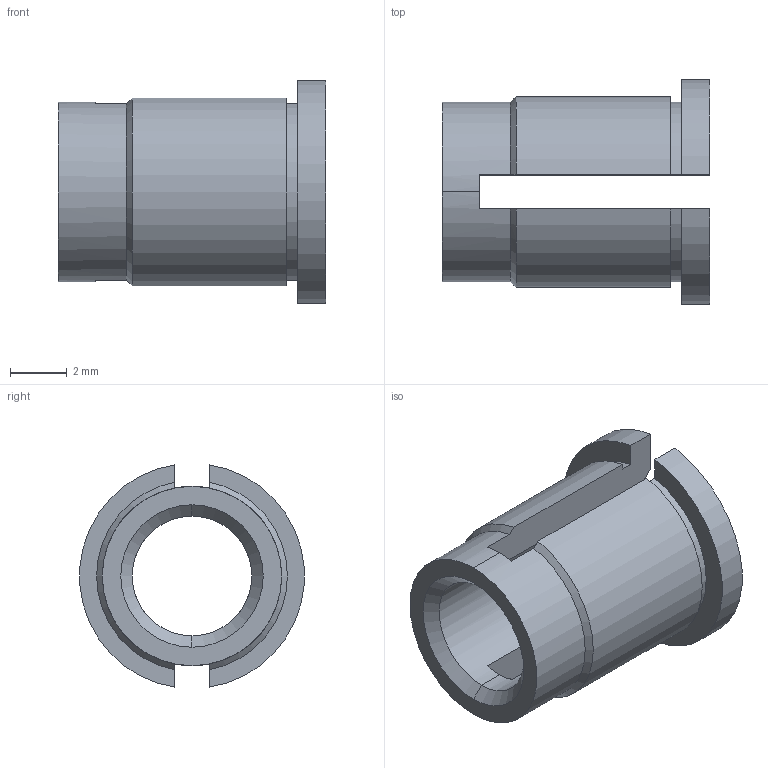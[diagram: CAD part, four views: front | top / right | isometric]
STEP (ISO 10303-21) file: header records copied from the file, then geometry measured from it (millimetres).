
FILE_DESCRIPTION (( 'STEP AP203' ), '1' );
FILE_NAME ('FSUK-EXPR-M05-S.STEP', '2021-04-15T17:34:50', ( '' ), ( '' ), 'SwSTEP 2.0', 'SolidWorks 2021', '' );
FILE_SCHEMA (( 'CONFIG_CONTROL_DESIGN' ));
Length unit declared in the file: millimetre
Products named in the file (1): FSUK-EXPR-M05-S
Bounding box: 9.4 x 7.87 x 7.81 mm (x, y, z)
Volume: 175.7 mm3; surface area: 391.4 mm2
Topology: 1 solids, 1 shells, 29 faces, 82 edges, 54 vertices
Faces by surface type: plane 13, cylinder 10, cone 6
Entity records: 1041 total; most frequent: CARTESIAN_POINT 190, DIRECTION 166, ORIENTED_EDGE 164, EDGE_CURVE 82, AXIS2_PLACEMENT_3D 62, VERTEX_POINT 54, VECTOR 42, LINE 42
